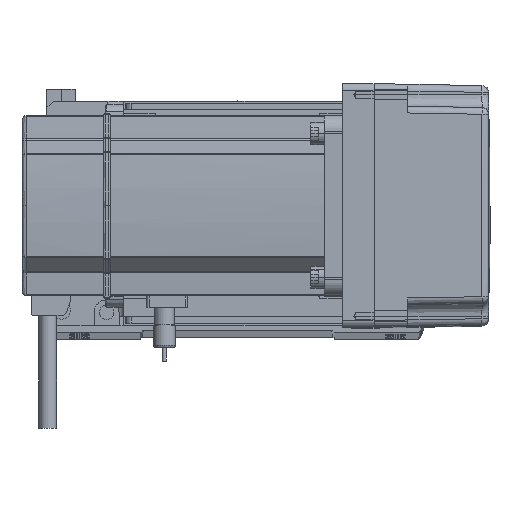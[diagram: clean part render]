
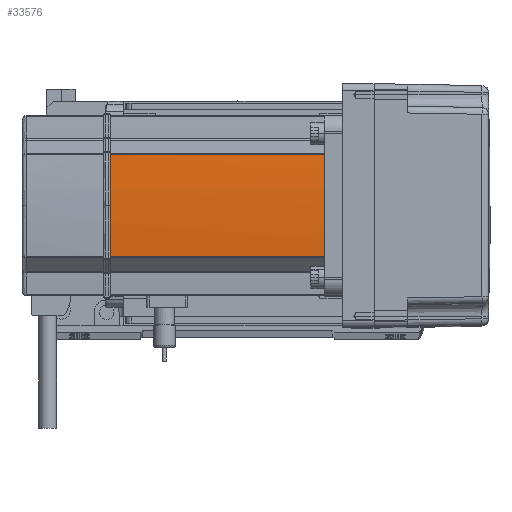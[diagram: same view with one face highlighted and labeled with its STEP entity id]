
A CAD part, top view. The second image highlights one B-rep face of the part: STEP entity #33576.
In plain terms, the highlighted cylindrical face has radius 270 mm (diameter 540 mm), a partial arc.
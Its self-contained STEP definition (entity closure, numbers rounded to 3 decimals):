
#623 = DIRECTION ( 'NONE',  ( 1., 0., 0. ) ) ;
#637 = CARTESIAN_POINT ( 'NONE',  ( -39.042, -22.724, 0. ) ) ;
#1073 = CARTESIAN_POINT ( 'NONE',  ( -39.042, -22.724, 134. ) ) ;
#1238 = LINE ( 'NONE', #16054, #46393 ) ;
#1476 = DIRECTION ( 'NONE',  ( 0., 0., -1. ) ) ;
#3663 = DIRECTION ( 'NONE',  ( 1., 0., 0. ) ) ;
#3943 = LINE ( 'NONE', #637, #31679 ) ;
#6099 = CARTESIAN_POINT ( 'NONE',  ( -39.042, -22.724, 39. ) ) ;
#6290 = EDGE_CURVE ( 'NONE', #25290, #11205, #3943, .T. ) ;
#6844 = EDGE_LOOP ( 'NONE', ( #33955, #22778, #38143, #23825, #33889 ) ) ;
#7221 = CYLINDRICAL_SURFACE ( 'NONE', #46084, 270. ) ;
#7307 = EDGE_CURVE ( 'NONE', #47454, #31002, #38892, .T. ) ;
#7457 = CARTESIAN_POINT ( 'NONE',  ( -40., 0., 134. ) ) ;
#9751 = CARTESIAN_POINT ( 'NONE',  ( 230., 0., 134. ) ) ;
#10029 = DIRECTION ( 'NONE',  ( 0., 0., -1. ) ) ;
#11165 = EDGE_CURVE ( 'NONE', #25290, #41958, #45845, .T. ) ;
#11205 = VERTEX_POINT ( 'NONE', #1073 ) ;
#12602 = EDGE_CURVE ( 'NONE', #11205, #47454, #44869, .T. ) ;
#16054 = CARTESIAN_POINT ( 'NONE',  ( -39.042, 22.724, 0. ) ) ;
#17747 = DIRECTION ( 'NONE',  ( 0., 0., 1. ) ) ;
#19390 = DIRECTION ( 'NONE',  ( 1., 0., 0. ) ) ;
#19400 = DIRECTION ( 'NONE',  ( 1., 0., 0. ) ) ;
#22778 = ORIENTED_EDGE ( 'NONE', *, *, #7307, .T. ) ;
#23825 = ORIENTED_EDGE ( 'NONE', *, *, #11165, .F. ) ;
#25290 = VERTEX_POINT ( 'NONE', #6099 ) ;
#28406 = AXIS2_PLACEMENT_3D ( 'NONE', #9751, #28497, #623 ) ;
#28497 = DIRECTION ( 'NONE',  ( 0., 0., -1. ) ) ;
#28748 = CARTESIAN_POINT ( 'NONE',  ( 230., 0., 39. ) ) ;
#29996 = EDGE_CURVE ( 'NONE', #31002, #41958, #1238, .T. ) ;
#31002 = VERTEX_POINT ( 'NONE', #43641 ) ;
#31679 = VECTOR ( 'NONE', #56058, 1000. ) ;
#33576 = ADVANCED_FACE ( 'NONE', ( #54703 ), #7221, .T. ) ;
#33889 = ORIENTED_EDGE ( 'NONE', *, *, #6290, .T. ) ;
#33955 = ORIENTED_EDGE ( 'NONE', *, *, #12602, .T. ) ;
#35206 = AXIS2_PLACEMENT_3D ( 'NONE', #56521, #10029, #19400 ) ;
#38143 = ORIENTED_EDGE ( 'NONE', *, *, #29996, .T. ) ;
#38892 = CIRCLE ( 'NONE', #35206, 270. ) ;
#41958 = VERTEX_POINT ( 'NONE', #50104 ) ;
#43641 = CARTESIAN_POINT ( 'NONE',  ( -39.042, 22.724, 134. ) ) ;
#44869 = CIRCLE ( 'NONE', #28406, 270. ) ;
#45468 = CARTESIAN_POINT ( 'NONE',  ( 230., 0., 0. ) ) ;
#45845 = CIRCLE ( 'NONE', #54519, 270. ) ;
#46084 = AXIS2_PLACEMENT_3D ( 'NONE', #45468, #17747, #3663 ) ;
#46393 = VECTOR ( 'NONE', #47837, 1000. ) ;
#47454 = VERTEX_POINT ( 'NONE', #7457 ) ;
#47837 = DIRECTION ( 'NONE',  ( 0., 0., -1. ) ) ;
#50104 = CARTESIAN_POINT ( 'NONE',  ( -39.042, 22.724, 39. ) ) ;
#54519 = AXIS2_PLACEMENT_3D ( 'NONE', #28748, #1476, #19390 ) ;
#54703 = FACE_OUTER_BOUND ( 'NONE', #6844, .T. ) ;
#56058 = DIRECTION ( 'NONE',  ( 0., 0., 1. ) ) ;
#56521 = CARTESIAN_POINT ( 'NONE',  ( 230., 0., 134. ) ) ;
